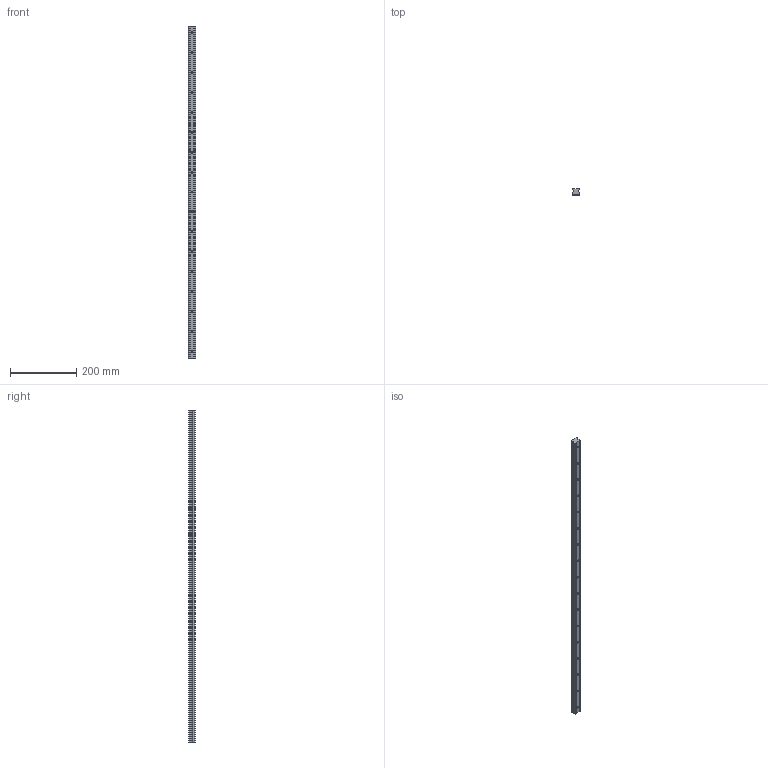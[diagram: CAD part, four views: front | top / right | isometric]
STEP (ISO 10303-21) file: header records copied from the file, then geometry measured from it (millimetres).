
FILE_DESCRIPTION (( 'STEP AP203' ), '1' );
FILE_NAME ('L1016.BRF25-1000.step', '2019-06-13T08:36:41', ( '' ), ( '' ), 'SwSTEP 2.0', 'SolidWorks 2017', '' );
FILE_SCHEMA (( 'CONFIG_CONTROL_DESIGN' ));
Length unit declared in the file: millimetre
Products named in the file (1): L1016.BRF25-1000
Bounding box: 23 x 19.2 x 1000 mm (x, y, z)
Volume: 381714.2 mm3; surface area: 92599.3 mm2
Topology: 1 solids, 1 shells, 145 faces, 344 edges, 201 vertices
Faces by surface type: cylinder 72, plane 39, cone 34
Entity records: 4029 total; most frequent: DIRECTION 746, CARTESIAN_POINT 657, ORIENTED_EDGE 620, EDGE_CURVE 310, AXIS2_PLACEMENT_3D 290, VERTEX_POINT 201, EDGE_LOOP 179, LINE 166
